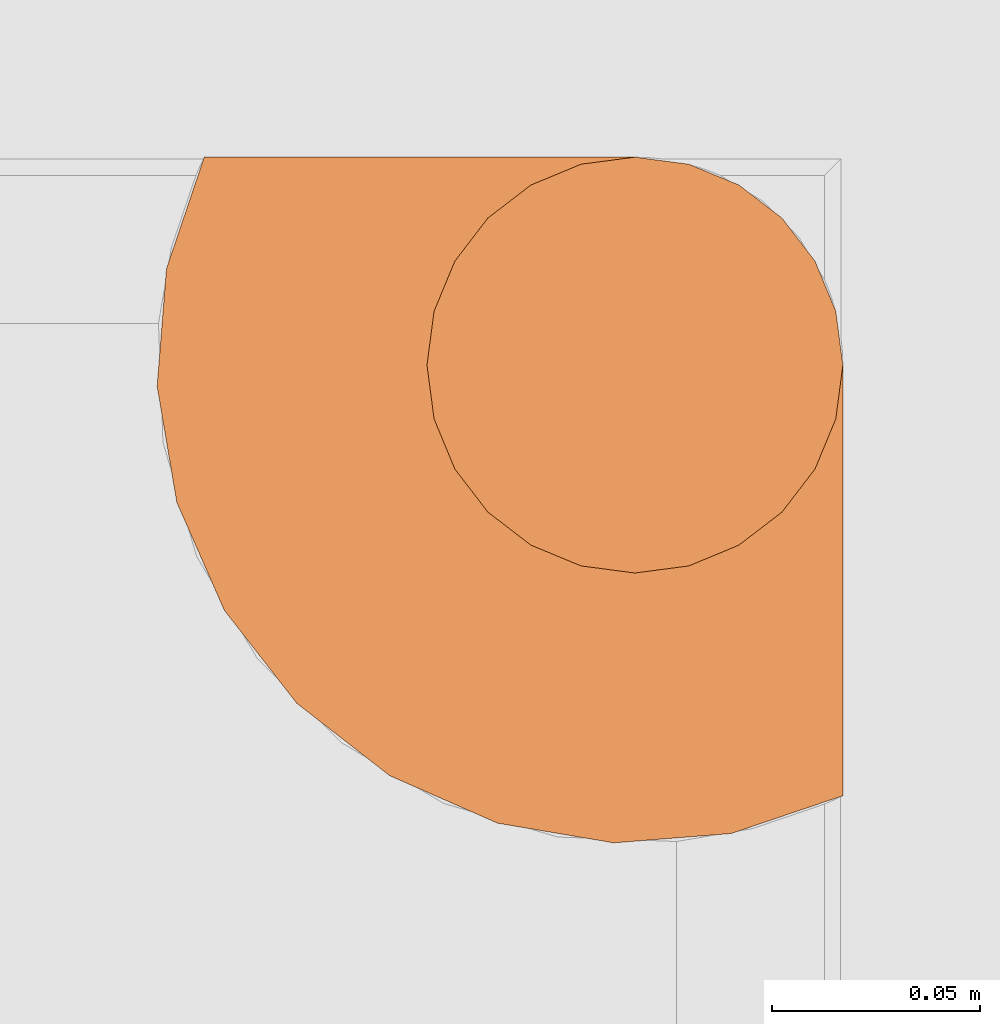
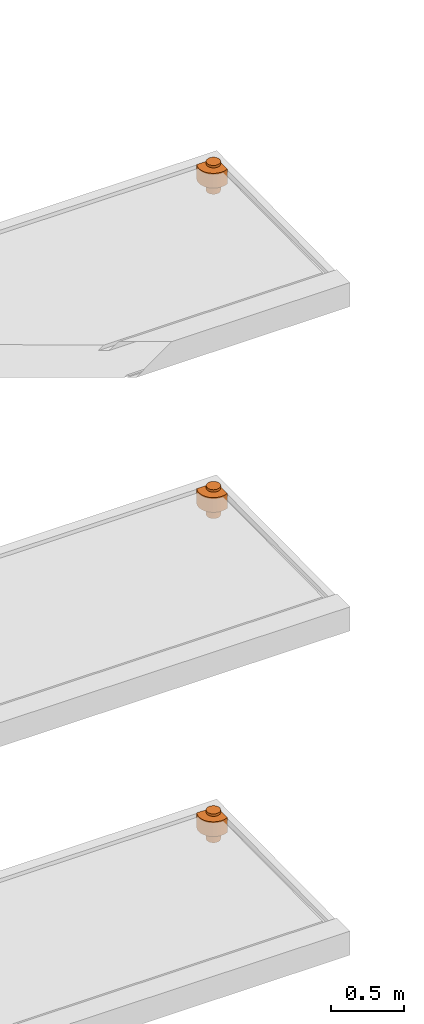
# One storey, part 29 of 31: 3 proxies, 3 elements without a shape of their own.
"""IFC2X3 building model written with IfcOpenShell, lengths in centimetres."""

from ifc_helpers import new_model, entity, si_unit, converted_unit, derived_unit, direction, frame, origin, place, context, subcontext, project, spatial, faceted_brep, source, transform, mapped, material, type_object, type_shapes, element, aggregate, save


model = new_model("IFC2X3")

# Units and contexts
model_context = context("Model", 3, precision=0.001, world=origin(), true_north=direction((6.12303176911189e-17, 1.0)))
body_context = subcontext(model_context, "Body", "Model", "MODEL_VIEW")
ifc_project = project(units=[si_unit("LENGTHUNIT", "METRE", prefix="CENTI"), si_unit("AREAUNIT", "SQUARE_METRE"), si_unit("VOLUMEUNIT", "CUBIC_METRE"), converted_unit("PLANEANGLEUNIT", "DEGREE", entity("IfcRatioMeasure", 0.0174532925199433), si_unit("PLANEANGLEUNIT", "RADIAN"), dimensions=[0, 0, 0, 0, 0, 0, 0]), si_unit("MASSUNIT", "GRAM", prefix="KILO"), derived_unit("MASSDENSITYUNIT", [(si_unit("MASSUNIT", "GRAM", prefix="KILO"), 1), (si_unit("LENGTHUNIT", "METRE"), -3)]), si_unit("TIMEUNIT", "SECOND"), si_unit("FREQUENCYUNIT", "HERTZ"), si_unit("THERMODYNAMICTEMPERATUREUNIT", "DEGREE_CELSIUS"), derived_unit("THERMALTRANSMITTANCEUNIT", [(si_unit("MASSUNIT", "GRAM", prefix="KILO"), 1), (si_unit("THERMODYNAMICTEMPERATUREUNIT", "KELVIN"), -1), (si_unit("TIMEUNIT", "SECOND"), -3)]), derived_unit("VOLUMETRICFLOWRATEUNIT", [(si_unit("LENGTHUNIT", "METRE"), 3), (si_unit("TIMEUNIT", "SECOND"), -1)]), si_unit("ELECTRICCURRENTUNIT", "AMPERE"), si_unit("ELECTRICVOLTAGEUNIT", "VOLT"), si_unit("POWERUNIT", "WATT"), si_unit("FORCEUNIT", "NEWTON"), si_unit("ILLUMINANCEUNIT", "LUX"), si_unit("LUMINOUSFLUXUNIT", "LUMEN"), si_unit("LUMINOUSINTENSITYUNIT", "CANDELA"), derived_unit("USERDEFINED", [(si_unit("MASSUNIT", "GRAM", prefix="KILO"), -1), (si_unit("LENGTHUNIT", "METRE"), -2), (si_unit("TIMEUNIT", "SECOND"), 3), (si_unit("LUMINOUSFLUXUNIT", "LUMEN"), 1)]), derived_unit("LINEARVELOCITYUNIT", [(si_unit("LENGTHUNIT", "METRE"), 1), (si_unit("TIMEUNIT", "SECOND"), -1)]), si_unit("PRESSUREUNIT", "PASCAL"), derived_unit("USERDEFINED", [(si_unit("LENGTHUNIT", "METRE"), -2), (si_unit("MASSUNIT", "GRAM", prefix="KILO"), 1), (si_unit("TIMEUNIT", "SECOND"), -2)])], contexts=[model_context])

# Site, building, storey
site_placement = place(None, origin())
site = spatial("IfcSite", under=ifc_project, at=site_placement, Name="Default", CompositionType="ELEMENT")
building_placement = place(site_placement, origin())
building = spatial("IfcBuilding", under=site, at=building_placement, Name="CAGE 03", CompositionType="ELEMENT")
storey_placement = place(building_placement, frame((0.0, 0.0, -400.0)))
storey = spatial("IfcBuildingStorey", under=building, at=storey_placement, Name="±0.00", CompositionType="ELEMENT", Elevation=-400.0)

# Assembly, proxy
assembly_1_placement = place(storey_placement, origin())
assembly_1 = element("IfcElementAssembly", 1, at=assembly_1_placement, inside=storey, Name="Assemblage Modèles génériques:BALCON TYPE 05", ObjectType="Assemblage Modèles génériques:BALCON TYPE 05", AssemblyPlace="NOTDEFINED", PredefinedType="USERDEFINED")
ifc_material = material(Name="BBGO_Résa")
building_element_proxy_type_1 = type_object("IfcBuildingElementProxyType", Name="Siphon de balcon", PredefinedType="NOTDEFINED", material=ifc_material)
shared_shape_1 = source(origin(), body_context, "Body", "Brep", [
    faceted_brep([(10.3541591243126, 16.4778834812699, 9.69999999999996), (10.3541591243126, 16.4778834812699, 0.0), (9.14825434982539, 15.9783813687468, 0.0), (9.14825434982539, 15.9783813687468, 9.69999999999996), (10.3541591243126, 16.4778834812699, 22.0), (9.14825434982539, 15.9783813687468, 22.0), (9.14825434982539, 15.9783813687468, 24.0), (10.3541591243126, 16.4778834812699, 24.0), (8.11272044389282, 15.1837882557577, 0.0), (8.11272044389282, 15.1837882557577, 9.69999999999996), (8.11272044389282, 15.1837882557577, 22.0), (8.11272044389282, 15.1837882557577, 24.0), (7.31812733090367, 14.1482543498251, 9.69999999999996), (7.31812733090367, 14.1482543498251, 0.0), (6.81862521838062, 12.9423495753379, 0.0), (6.81862521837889, 12.942349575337, 9.69999999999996), (7.31812733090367, 14.1482543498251, 22.0), (6.81862521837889, 12.942349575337, 22.0), (6.81862521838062, 12.9423495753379, 24.0), (7.31812733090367, 14.1482543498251, 24.0), (6.64825434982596, 11.6482543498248, 0.0), (6.64825434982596, 11.6482543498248, 9.69999999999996), (6.64825434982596, 11.6482543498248, 24.0), (6.64825434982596, 11.6482543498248, 22.0), (11.6482543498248, 16.6482543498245, 9.69999999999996), (11.6482543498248, 16.6482543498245, 0.0), (11.6482543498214, 16.6482543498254, 22.0), (11.6482543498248, 16.6482543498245, 24.0), (6.81862521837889, 10.3541591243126, 9.69999999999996), (6.81862521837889, 10.3541591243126, 0.0), (7.31812733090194, 9.14825434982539, 0.0), (7.31812733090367, 9.14825434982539, 9.69999999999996), (6.81862521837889, 10.3541591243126, 22.0), (7.31812733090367, 9.14825434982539, 22.0), (7.31812733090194, 9.14825434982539, 24.0), (6.81862521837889, 10.3541591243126, 24.0), (8.11272044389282, 8.11272044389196, 0.0), (8.11272044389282, 8.11272044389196, 9.69999999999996), (8.11272044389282, 8.11272044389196, 22.0), (8.11272044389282, 8.11272044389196, 24.0), (9.14825434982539, 7.31812733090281, 9.69999999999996), (9.14825434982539, 7.31812733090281, 0.0), (10.3541591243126, 6.81862521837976, 0.0), (10.3541591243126, 6.81862521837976, 9.69999999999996), (9.14825434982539, 7.31812733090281, 22.0), (10.3541591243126, 6.81862521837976, 22.0), (10.3541591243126, 6.81862521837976, 24.0), (9.14825434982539, 7.31812733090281, 24.0), (11.6482543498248, 6.64825434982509, 0.0), (11.6482543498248, 6.64825434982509, 9.69999999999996), (11.6482543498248, 6.64825434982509, 22.0), (11.6482543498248, 6.64825434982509, 24.0), (16.4778834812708, 10.3541591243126, 22.0), (15.978381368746, 9.14825434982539, 22.0), (15.1837882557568, 8.11272044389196, 22.0), (14.1482543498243, 7.31812733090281, 22.0), (12.942349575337, 6.81862521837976, 22.0), (1.29209676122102, 16.6482543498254, 22.0), (0.383832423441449, 13.964026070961, 22.0), (0.15952722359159, 11.1391875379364, 22.0), (0.632800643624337, 8.34525879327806, 22.0), (1.77491621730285, 5.75188308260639, 22.0), (3.51652636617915, 3.51652636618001, 22.0), (5.75188308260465, 1.77491621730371, 22.0), (8.34525879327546, 0.632800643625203, 22.0), (11.1391875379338, 0.159527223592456, 22.0), (13.9640260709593, 0.383832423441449, 22.0), (16.6482543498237, 1.29209676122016, 22.0), (16.6482543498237, 11.6482543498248, 22.0), (12.942349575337, 6.81862521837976, 9.69999999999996), (14.1482543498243, 7.31812733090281, 9.69999999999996), (15.1837882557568, 8.11272044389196, 9.69999999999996), (15.978381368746, 9.14825434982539, 9.69999999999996), (16.4778834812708, 10.3541591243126, 9.69999999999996), (16.6482543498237, 11.6482543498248, 9.69999999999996), (16.6482543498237, 1.29209676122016, 9.69999999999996), (13.9640260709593, 0.383832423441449, 9.69999999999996), (11.1391875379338, 0.159527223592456, 9.69999999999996), (8.34525879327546, 0.632800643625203, 9.69999999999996), (5.75188308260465, 1.77491621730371, 9.69999999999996), (3.51652636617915, 3.51652636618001, 9.69999999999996), (1.77491621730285, 5.75188308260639, 9.69999999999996), (0.632800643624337, 8.34525879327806, 9.69999999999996), (0.15952722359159, 11.1391875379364, 9.69999999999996), (0.383832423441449, 13.964026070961, 9.69999999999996), (1.29209676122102, 16.6482543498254, 9.69999999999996), (1.29209676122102, 16.6482543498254, 21.5299497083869), (16.6482543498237, 1.29209676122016, 21.3763717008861), (12.942349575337, 6.81862521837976, 24.0), (14.1482543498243, 7.31812733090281, 24.0), (15.1837882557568, 8.11272044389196, 24.0), (15.978381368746, 9.14825434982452, 24.0), (16.477883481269, 10.3541591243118, 24.0), (16.6482543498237, 11.6482543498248, 24.0), (16.4778834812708, 12.942349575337, 24.0), (15.9783813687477, 14.1482543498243, 24.0), (15.1837882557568, 15.1837882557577, 24.0), (14.1482543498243, 15.9783813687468, 24.0), (12.942349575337, 16.4778834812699, 24.0), (14.1482543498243, 7.31812733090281, 0.0), (12.942349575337, 6.81862521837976, 0.0), (12.942349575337, 16.4778834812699, 0.0), (14.1482543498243, 15.9783813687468, 0.0), (15.1837882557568, 15.1837882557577, 0.0), (15.9783813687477, 14.1482543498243, 0.0), (16.4778834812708, 12.942349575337, 0.0), (16.6482543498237, 11.6482543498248, 0.0), (16.477883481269, 10.3541591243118, 0.0), (15.978381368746, 9.14825434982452, 0.0), (15.1837882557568, 8.11272044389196, 0.0)], [[[0, 1, 2, 3]], [[4, 5, 6, 7]], [[8, 9, 3, 2]], [[5, 10, 11, 6]], [[12, 13, 14, 15]], [[16, 17, 18, 19]], [[8, 13, 12, 9]], [[10, 16, 19, 11]], [[15, 14, 20, 21]], [[22, 18, 17, 23]], [[1, 0, 24, 25]], [[26, 4, 7, 27]], [[28, 29, 30, 31]], [[32, 33, 34, 35]], [[36, 37, 31, 30]], [[33, 38, 39, 34]], [[40, 41, 42, 43]], [[44, 45, 46, 47]], [[36, 41, 40, 37]], [[38, 44, 47, 39]], [[43, 42, 48, 49]], [[45, 50, 51, 46]], [[29, 28, 21, 20]], [[32, 35, 22, 23]], [[52, 53, 54, 55, 56, 50, 45, 44, 38, 33, 32, 23, 17, 16, 10, 5, 4, 26, 57, 58, 59, 60, 61, 62, 63, 64, 65, 66, 67, 68]], [[21, 28, 31, 37, 40, 43, 49, 69, 70, 71, 72, 73, 74, 75, 76, 77, 78, 79, 80, 81, 82, 83, 84, 85, 24, 0, 3, 9, 12, 15]], [[57, 26, 24, 85, 86]], [[86, 85, 84, 58, 57]], [[83, 59, 58, 84]], [[60, 82, 81, 61]], [[83, 82, 60, 59]], [[61, 81, 80, 62]], [[78, 64, 63, 79]], [[77, 65, 64, 78]], [[76, 75, 87, 67, 66]], [[77, 76, 66, 65]], [[79, 63, 62, 80]], [[68, 67, 87, 75, 74]], [[22, 35, 34, 39, 47, 46, 51, 88, 89, 90, 91, 92, 93, 94, 95, 96, 97, 98, 27, 7, 6, 11, 19, 18]], [[99, 100, 48, 42, 41, 36, 30, 29, 20, 14, 13, 8, 2, 1, 25, 101, 102, 103, 104, 105, 106, 107, 108, 109]], [[48, 100, 69, 49]], [[51, 50, 56, 88]], [[99, 70, 69, 100]], [[56, 55, 89, 88]], [[109, 108, 72, 71]], [[54, 53, 91, 90]], [[109, 71, 70, 99]], [[54, 90, 89, 55]], [[108, 107, 73, 72]], [[91, 53, 52, 92]], [[74, 106, 105, 94, 93, 68]], [[107, 106, 74, 73]], [[52, 68, 93, 92]], [[94, 105, 104, 95]], [[101, 25, 24, 26, 27, 98]], [[96, 103, 102, 97]], [[101, 98, 97, 102]], [[95, 104, 103, 96]]]),
])
type_shapes(building_element_proxy_type_1, [shared_shape_1])
proxy_1_placement = place(assembly_1_placement, frame((9680.71756579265, 3954.01241172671, 1258.0)))
proxy_1 = element("IfcBuildingElementProxy", 2, at=proxy_1_placement, type_object=building_element_proxy_type_1, material=ifc_material, Name="Siphon de balcon17:Siphon de balcon", ObjectType="Siphon de balcon", context=body_context, shape_type="MappedRepresentation", body=[
    mapped(shared_shape_1, transform((0.0, 0.0, 0.0), scale=1.0)),
])
aggregate(assembly_1, [proxy_1])

assembly_2_placement = place(storey_placement, origin())
assembly_2 = element("IfcElementAssembly", 3, at=assembly_2_placement, inside=storey, Name="Assemblage Modèles génériques:BALCON TYPE 05", ObjectType="Assemblage Modèles génériques:BALCON TYPE 05", AssemblyPlace="NOTDEFINED", PredefinedType="USERDEFINED")
building_element_proxy_type_2 = type_object("IfcBuildingElementProxyType", Name="Siphon de balcon", PredefinedType="NOTDEFINED", material=ifc_material)
shared_shape_2 = source(origin(), body_context, "Body", "Brep", [
    faceted_brep([(10.3541591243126, 16.4778834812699, 9.69999999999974), (10.3541591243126, 16.4778834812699, 0.0), (9.14825434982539, 15.9783813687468, 0.0), (9.14825434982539, 15.9783813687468, 9.69999999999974), (10.3541591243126, 16.4778834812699, 22.0), (9.14825434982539, 15.9783813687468, 22.0), (9.14825434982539, 15.9783813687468, 24.0), (10.3541591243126, 16.4778834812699, 24.0), (8.11272044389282, 15.1837882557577, 0.0), (8.11272044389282, 15.1837882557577, 9.69999999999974), (8.11272044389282, 15.1837882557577, 22.0), (8.11272044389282, 15.1837882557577, 24.0), (7.31812733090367, 14.1482543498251, 9.69999999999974), (7.31812733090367, 14.1482543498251, 0.0), (6.81862521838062, 12.9423495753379, 0.0), (6.81862521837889, 12.942349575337, 9.69999999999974), (7.31812733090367, 14.1482543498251, 22.0), (6.81862521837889, 12.942349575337, 22.0), (6.81862521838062, 12.9423495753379, 24.0), (7.31812733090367, 14.1482543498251, 24.0), (6.64825434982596, 11.6482543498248, 0.0), (6.64825434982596, 11.6482543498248, 9.69999999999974), (6.64825434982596, 11.6482543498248, 24.0), (6.64825434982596, 11.6482543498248, 22.0), (11.6482543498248, 16.6482543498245, 9.69999999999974), (11.6482543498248, 16.6482543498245, 0.0), (11.6482543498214, 16.6482543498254, 22.0), (11.6482543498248, 16.6482543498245, 24.0), (6.81862521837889, 10.3541591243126, 9.69999999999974), (6.81862521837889, 10.3541591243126, 0.0), (7.31812733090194, 9.14825434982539, 0.0), (7.31812733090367, 9.14825434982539, 9.69999999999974), (6.81862521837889, 10.3541591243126, 22.0), (7.31812733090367, 9.14825434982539, 22.0), (7.31812733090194, 9.14825434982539, 24.0), (6.81862521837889, 10.3541591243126, 24.0), (8.11272044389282, 8.11272044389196, 0.0), (8.11272044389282, 8.11272044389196, 9.69999999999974), (8.11272044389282, 8.11272044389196, 22.0), (8.11272044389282, 8.11272044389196, 24.0), (9.14825434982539, 7.31812733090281, 9.69999999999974), (9.14825434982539, 7.31812733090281, 0.0), (10.3541591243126, 6.81862521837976, 0.0), (10.3541591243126, 6.81862521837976, 9.69999999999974), (9.14825434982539, 7.31812733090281, 22.0), (10.3541591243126, 6.81862521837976, 22.0), (10.3541591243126, 6.81862521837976, 24.0), (9.14825434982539, 7.31812733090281, 24.0), (11.6482543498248, 6.64825434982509, 0.0), (11.6482543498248, 6.64825434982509, 9.69999999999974), (11.6482543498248, 6.64825434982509, 22.0), (11.6482543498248, 6.64825434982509, 24.0), (16.4778834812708, 10.3541591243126, 22.0), (15.978381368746, 9.14825434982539, 22.0), (15.1837882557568, 8.11272044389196, 22.0), (14.1482543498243, 7.31812733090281, 22.0), (12.942349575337, 6.81862521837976, 22.0), (1.29209676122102, 16.6482543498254, 22.0), (0.383832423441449, 13.964026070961, 22.0), (0.15952722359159, 11.1391875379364, 22.0), (0.632800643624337, 8.34525879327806, 22.0), (1.77491621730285, 5.75188308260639, 22.0), (3.51652636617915, 3.51652636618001, 22.0), (5.75188308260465, 1.77491621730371, 22.0), (8.34525879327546, 0.632800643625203, 22.0), (11.1391875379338, 0.159527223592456, 22.0), (13.9640260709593, 0.383832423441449, 22.0), (16.6482543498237, 1.29209676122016, 22.0), (16.6482543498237, 11.6482543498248, 22.0), (12.942349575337, 6.81862521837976, 9.69999999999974), (14.1482543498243, 7.31812733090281, 9.69999999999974), (15.1837882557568, 8.11272044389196, 9.69999999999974), (15.978381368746, 9.14825434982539, 9.69999999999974), (16.4778834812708, 10.3541591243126, 9.69999999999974), (16.6482543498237, 11.6482543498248, 9.69999999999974), (16.6482543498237, 1.29209676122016, 9.69999999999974), (13.9640260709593, 0.383832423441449, 9.69999999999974), (11.1391875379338, 0.159527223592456, 9.69999999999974), (8.34525879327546, 0.632800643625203, 9.69999999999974), (5.75188308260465, 1.77491621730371, 9.69999999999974), (3.51652636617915, 3.51652636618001, 9.69999999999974), (1.77491621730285, 5.75188308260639, 9.69999999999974), (0.632800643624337, 8.34525879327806, 9.69999999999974), (0.15952722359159, 11.1391875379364, 9.69999999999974), (0.383832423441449, 13.964026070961, 9.69999999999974), (1.29209676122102, 16.6482543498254, 9.69999999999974), (1.29209676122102, 16.6482543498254, 21.5299497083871), (16.6482543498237, 1.29209676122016, 21.3763717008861), (12.942349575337, 6.81862521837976, 24.0), (14.1482543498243, 7.31812733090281, 24.0), (15.1837882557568, 8.11272044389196, 24.0), (15.978381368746, 9.14825434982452, 24.0), (16.477883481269, 10.3541591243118, 24.0), (16.6482543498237, 11.6482543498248, 24.0), (16.4778834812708, 12.942349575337, 24.0), (15.9783813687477, 14.1482543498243, 24.0), (15.1837882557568, 15.1837882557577, 24.0), (14.1482543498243, 15.9783813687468, 24.0), (12.942349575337, 16.4778834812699, 24.0), (14.1482543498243, 7.31812733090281, 0.0), (12.942349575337, 6.81862521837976, 0.0), (12.942349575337, 16.4778834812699, 0.0), (14.1482543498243, 15.9783813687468, 0.0), (15.1837882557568, 15.1837882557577, 0.0), (15.9783813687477, 14.1482543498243, 0.0), (16.4778834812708, 12.942349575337, 0.0), (16.6482543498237, 11.6482543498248, 0.0), (16.477883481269, 10.3541591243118, 0.0), (15.978381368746, 9.14825434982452, 0.0), (15.1837882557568, 8.11272044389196, 0.0)], [[[0, 1, 2, 3]], [[4, 5, 6, 7]], [[8, 9, 3, 2]], [[5, 10, 11, 6]], [[12, 13, 14, 15]], [[16, 17, 18, 19]], [[8, 13, 12, 9]], [[10, 16, 19, 11]], [[15, 14, 20, 21]], [[22, 18, 17, 23]], [[1, 0, 24, 25]], [[26, 4, 7, 27]], [[28, 29, 30, 31]], [[32, 33, 34, 35]], [[36, 37, 31, 30]], [[33, 38, 39, 34]], [[40, 41, 42, 43]], [[44, 45, 46, 47]], [[36, 41, 40, 37]], [[38, 44, 47, 39]], [[43, 42, 48, 49]], [[45, 50, 51, 46]], [[29, 28, 21, 20]], [[32, 35, 22, 23]], [[52, 53, 54, 55, 56, 50, 45, 44, 38, 33, 32, 23, 17, 16, 10, 5, 4, 26, 57, 58, 59, 60, 61, 62, 63, 64, 65, 66, 67, 68]], [[21, 28, 31, 37, 40, 43, 49, 69, 70, 71, 72, 73, 74, 75, 76, 77, 78, 79, 80, 81, 82, 83, 84, 85, 24, 0, 3, 9, 12, 15]], [[57, 26, 24, 85, 86]], [[86, 85, 84, 58, 57]], [[83, 59, 58, 84]], [[60, 82, 81, 61]], [[83, 82, 60, 59]], [[61, 81, 80, 62]], [[78, 64, 63, 79]], [[77, 65, 64, 78]], [[76, 75, 87, 67, 66]], [[77, 76, 66, 65]], [[79, 63, 62, 80]], [[68, 67, 87, 75, 74]], [[22, 35, 34, 39, 47, 46, 51, 88, 89, 90, 91, 92, 93, 94, 95, 96, 97, 98, 27, 7, 6, 11, 19, 18]], [[99, 100, 48, 42, 41, 36, 30, 29, 20, 14, 13, 8, 2, 1, 25, 101, 102, 103, 104, 105, 106, 107, 108, 109]], [[48, 100, 69, 49]], [[51, 50, 56, 88]], [[99, 70, 69, 100]], [[56, 55, 89, 88]], [[109, 108, 72, 71]], [[54, 53, 91, 90]], [[109, 71, 70, 99]], [[54, 90, 89, 55]], [[108, 107, 73, 72]], [[91, 53, 52, 92]], [[74, 106, 105, 94, 93, 68]], [[107, 106, 74, 73]], [[52, 68, 93, 92]], [[94, 105, 104, 95]], [[101, 25, 24, 26, 27, 98]], [[96, 103, 102, 97]], [[101, 98, 97, 102]], [[95, 104, 103, 96]]]),
])
type_shapes(building_element_proxy_type_2, [shared_shape_2])
proxy_2_placement = place(assembly_2_placement, frame((9680.71756579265, 3954.01241172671, 1528.0)))
proxy_2 = element("IfcBuildingElementProxy", 4, at=proxy_2_placement, type_object=building_element_proxy_type_2, material=ifc_material, Name="Siphon de balcon18:Siphon de balcon", ObjectType="Siphon de balcon", context=body_context, shape_type="MappedRepresentation", body=[
    mapped(shared_shape_2, transform((0.0, 0.0, 0.0), scale=1.0)),
])
aggregate(assembly_2, [proxy_2])

assembly_3_placement = place(storey_placement, origin())
assembly_3 = element("IfcElementAssembly", 5, at=assembly_3_placement, inside=storey, Name="Assemblage Modèles génériques:BALCON TYPE 05", ObjectType="Assemblage Modèles génériques:BALCON TYPE 05", AssemblyPlace="NOTDEFINED", PredefinedType="USERDEFINED")
building_element_proxy_type_3 = type_object("IfcBuildingElementProxyType", Name="Siphon de balcon", PredefinedType="NOTDEFINED", material=ifc_material)
shared_shape_3 = source(origin(), body_context, "Body", "Brep", [
    faceted_brep([(10.3541591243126, 16.4778834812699, 9.69999999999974), (10.3541591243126, 16.4778834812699, 0.0), (9.14825434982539, 15.9783813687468, 0.0), (9.14825434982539, 15.9783813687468, 9.69999999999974), (10.3541591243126, 16.4778834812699, 22.0), (9.14825434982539, 15.9783813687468, 22.0), (9.14825434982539, 15.9783813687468, 24.0), (10.3541591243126, 16.4778834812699, 24.0), (8.11272044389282, 15.1837882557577, 0.0), (8.11272044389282, 15.1837882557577, 9.69999999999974), (8.11272044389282, 15.1837882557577, 22.0), (8.11272044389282, 15.1837882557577, 24.0), (7.31812733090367, 14.1482543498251, 9.69999999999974), (7.31812733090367, 14.1482543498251, 0.0), (6.81862521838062, 12.9423495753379, 0.0), (6.81862521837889, 12.942349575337, 9.69999999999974), (7.31812733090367, 14.1482543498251, 22.0), (6.81862521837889, 12.942349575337, 22.0), (6.81862521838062, 12.9423495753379, 24.0), (7.31812733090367, 14.1482543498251, 24.0), (6.64825434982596, 11.6482543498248, 0.0), (6.64825434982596, 11.6482543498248, 9.69999999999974), (6.64825434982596, 11.6482543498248, 24.0), (6.64825434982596, 11.6482543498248, 22.0), (11.6482543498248, 16.6482543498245, 9.69999999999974), (11.6482543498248, 16.6482543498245, 0.0), (11.6482543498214, 16.6482543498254, 22.0), (11.6482543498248, 16.6482543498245, 24.0), (6.81862521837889, 10.3541591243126, 9.69999999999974), (6.81862521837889, 10.3541591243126, 0.0), (7.31812733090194, 9.14825434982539, 0.0), (7.31812733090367, 9.14825434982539, 9.69999999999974), (6.81862521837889, 10.3541591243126, 22.0), (7.31812733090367, 9.14825434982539, 22.0), (7.31812733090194, 9.14825434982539, 24.0), (6.81862521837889, 10.3541591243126, 24.0), (8.11272044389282, 8.11272044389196, 0.0), (8.11272044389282, 8.11272044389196, 9.69999999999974), (8.11272044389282, 8.11272044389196, 22.0), (8.11272044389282, 8.11272044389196, 24.0), (9.14825434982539, 7.31812733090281, 9.69999999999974), (9.14825434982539, 7.31812733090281, 0.0), (10.3541591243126, 6.81862521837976, 0.0), (10.3541591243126, 6.81862521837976, 9.69999999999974), (9.14825434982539, 7.31812733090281, 22.0), (10.3541591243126, 6.81862521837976, 22.0), (10.3541591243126, 6.81862521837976, 24.0), (9.14825434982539, 7.31812733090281, 24.0), (11.6482543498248, 6.64825434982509, 0.0), (11.6482543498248, 6.64825434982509, 9.69999999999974), (11.6482543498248, 6.64825434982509, 22.0), (11.6482543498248, 6.64825434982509, 24.0), (16.4778834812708, 10.3541591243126, 22.0), (15.978381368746, 9.14825434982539, 22.0), (15.1837882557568, 8.11272044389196, 22.0), (14.1482543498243, 7.31812733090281, 22.0), (12.942349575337, 6.81862521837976, 22.0), (1.29209676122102, 16.6482543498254, 22.0), (0.383832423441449, 13.964026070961, 22.0), (0.15952722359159, 11.1391875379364, 22.0), (0.632800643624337, 8.34525879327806, 22.0), (1.77491621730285, 5.75188308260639, 22.0), (3.51652636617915, 3.51652636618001, 22.0), (5.75188308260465, 1.77491621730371, 22.0), (8.34525879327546, 0.632800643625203, 22.0), (11.1391875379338, 0.159527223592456, 22.0), (13.9640260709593, 0.383832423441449, 22.0), (16.6482543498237, 1.29209676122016, 22.0), (16.6482543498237, 11.6482543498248, 22.0), (12.942349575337, 6.81862521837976, 9.69999999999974), (14.1482543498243, 7.31812733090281, 9.69999999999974), (15.1837882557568, 8.11272044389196, 9.69999999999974), (15.978381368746, 9.14825434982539, 9.69999999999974), (16.4778834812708, 10.3541591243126, 9.69999999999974), (16.6482543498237, 11.6482543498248, 9.69999999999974), (16.6482543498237, 1.29209676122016, 9.69999999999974), (13.9640260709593, 0.383832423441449, 9.69999999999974), (11.1391875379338, 0.159527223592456, 9.69999999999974), (8.34525879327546, 0.632800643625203, 9.69999999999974), (5.75188308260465, 1.77491621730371, 9.69999999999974), (3.51652636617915, 3.51652636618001, 9.69999999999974), (1.77491621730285, 5.75188308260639, 9.69999999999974), (0.632800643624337, 8.34525879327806, 9.69999999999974), (0.15952722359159, 11.1391875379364, 9.69999999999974), (0.383832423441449, 13.964026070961, 9.69999999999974), (1.29209676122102, 16.6482543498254, 9.69999999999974), (1.29209676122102, 16.6482543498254, 21.5299497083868), (16.6482543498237, 1.29209676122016, 21.3763717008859), (12.942349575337, 6.81862521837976, 24.0), (14.1482543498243, 7.31812733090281, 24.0), (15.1837882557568, 8.11272044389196, 24.0), (15.978381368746, 9.14825434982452, 24.0), (16.477883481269, 10.3541591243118, 24.0), (16.6482543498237, 11.6482543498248, 24.0), (16.4778834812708, 12.942349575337, 24.0), (15.9783813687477, 14.1482543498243, 24.0), (15.1837882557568, 15.1837882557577, 24.0), (14.1482543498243, 15.9783813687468, 24.0), (12.942349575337, 16.4778834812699, 24.0), (14.1482543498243, 7.31812733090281, 0.0), (12.942349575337, 6.81862521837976, 0.0), (12.942349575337, 16.4778834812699, 0.0), (14.1482543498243, 15.9783813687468, 0.0), (15.1837882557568, 15.1837882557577, 0.0), (15.9783813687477, 14.1482543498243, 0.0), (16.4778834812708, 12.942349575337, 0.0), (16.6482543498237, 11.6482543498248, 0.0), (16.477883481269, 10.3541591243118, 0.0), (15.978381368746, 9.14825434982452, 0.0), (15.1837882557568, 8.11272044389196, 0.0)], [[[0, 1, 2, 3]], [[4, 5, 6, 7]], [[8, 9, 3, 2]], [[5, 10, 11, 6]], [[12, 13, 14, 15]], [[16, 17, 18, 19]], [[8, 13, 12, 9]], [[10, 16, 19, 11]], [[15, 14, 20, 21]], [[22, 18, 17, 23]], [[1, 0, 24, 25]], [[26, 4, 7, 27]], [[28, 29, 30, 31]], [[32, 33, 34, 35]], [[36, 37, 31, 30]], [[33, 38, 39, 34]], [[40, 41, 42, 43]], [[44, 45, 46, 47]], [[36, 41, 40, 37]], [[38, 44, 47, 39]], [[43, 42, 48, 49]], [[45, 50, 51, 46]], [[29, 28, 21, 20]], [[32, 35, 22, 23]], [[52, 53, 54, 55, 56, 50, 45, 44, 38, 33, 32, 23, 17, 16, 10, 5, 4, 26, 57, 58, 59, 60, 61, 62, 63, 64, 65, 66, 67, 68]], [[21, 28, 31, 37, 40, 43, 49, 69, 70, 71, 72, 73, 74, 75, 76, 77, 78, 79, 80, 81, 82, 83, 84, 85, 24, 0, 3, 9, 12, 15]], [[57, 26, 24, 85, 86]], [[86, 85, 84, 58, 57]], [[83, 59, 58, 84]], [[60, 82, 81, 61]], [[83, 82, 60, 59]], [[61, 81, 80, 62]], [[78, 64, 63, 79]], [[77, 65, 64, 78]], [[76, 75, 87, 67, 66]], [[77, 76, 66, 65]], [[79, 63, 62, 80]], [[68, 67, 87, 75, 74]], [[22, 35, 34, 39, 47, 46, 51, 88, 89, 90, 91, 92, 93, 94, 95, 96, 97, 98, 27, 7, 6, 11, 19, 18]], [[99, 100, 48, 42, 41, 36, 30, 29, 20, 14, 13, 8, 2, 1, 25, 101, 102, 103, 104, 105, 106, 107, 108, 109]], [[48, 100, 69, 49]], [[51, 50, 56, 88]], [[99, 70, 69, 100]], [[56, 55, 89, 88]], [[109, 108, 72, 71]], [[54, 53, 91, 90]], [[109, 71, 70, 99]], [[54, 90, 89, 55]], [[108, 107, 73, 72]], [[91, 53, 52, 92]], [[74, 106, 105, 94, 93, 68]], [[107, 106, 74, 73]], [[52, 68, 93, 92]], [[94, 105, 104, 95]], [[101, 25, 24, 26, 27, 98]], [[96, 103, 102, 97]], [[101, 98, 97, 102]], [[95, 104, 103, 96]]]),
])
type_shapes(building_element_proxy_type_3, [shared_shape_3])
proxy_3_placement = place(assembly_3_placement, frame((9680.71756579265, 3954.01241172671, 1798.0)))
proxy_3 = element("IfcBuildingElementProxy", 6, at=proxy_3_placement, type_object=building_element_proxy_type_3, material=ifc_material, Name="Siphon de balcon19:Siphon de balcon", ObjectType="Siphon de balcon", context=body_context, shape_type="MappedRepresentation", body=[
    mapped(shared_shape_3, transform((0.0, 0.0, 0.0), scale=1.0)),
])
aggregate(assembly_3, [proxy_3])

save(model, "model.ifc")
